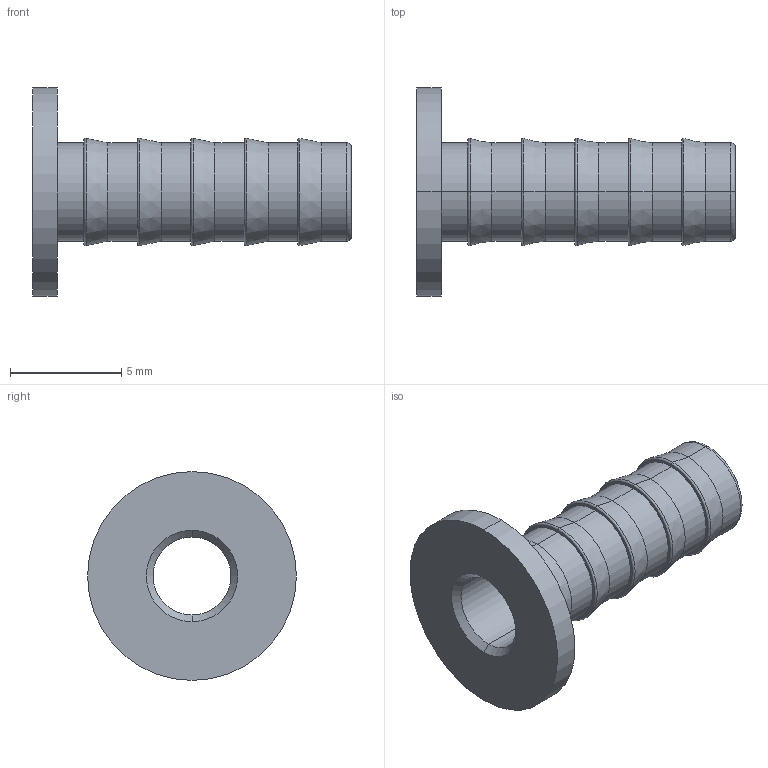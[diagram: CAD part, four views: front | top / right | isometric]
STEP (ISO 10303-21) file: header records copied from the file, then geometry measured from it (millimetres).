
FILE_DESCRIPTION (( 'STEP AP203' ), '1' );
FILE_NAME ('DTI06-03 SS.STEP', '2009-09-08T09:58:16', ( ' ' ), ( '' ), 'SwSTEP 2.0', 'SolidWorks 2008', '' );
FILE_SCHEMA (( 'CONFIG_CONTROL_DESIGN' ));
Length unit declared in the file: millimetre
Products named in the file (1): DTI06-03 SS
Bounding box: 14.3 x 9.37 x 9.37 mm (x, y, z)
Volume: 147.2 mm3; surface area: 503.9 mm2
Topology: 1 solids, 1 shells, 50 faces, 100 edges, 58 vertices
Faces by surface type: cylinder 16, cone 14, torus 12, plane 8
Entity records: 1387 total; most frequent: DIRECTION 272, CARTESIAN_POINT 209, ORIENTED_EDGE 200, AXIS2_PLACEMENT_3D 121, EDGE_CURVE 100, CIRCLE 70, VERTEX_POINT 58, EDGE_LOOP 58
